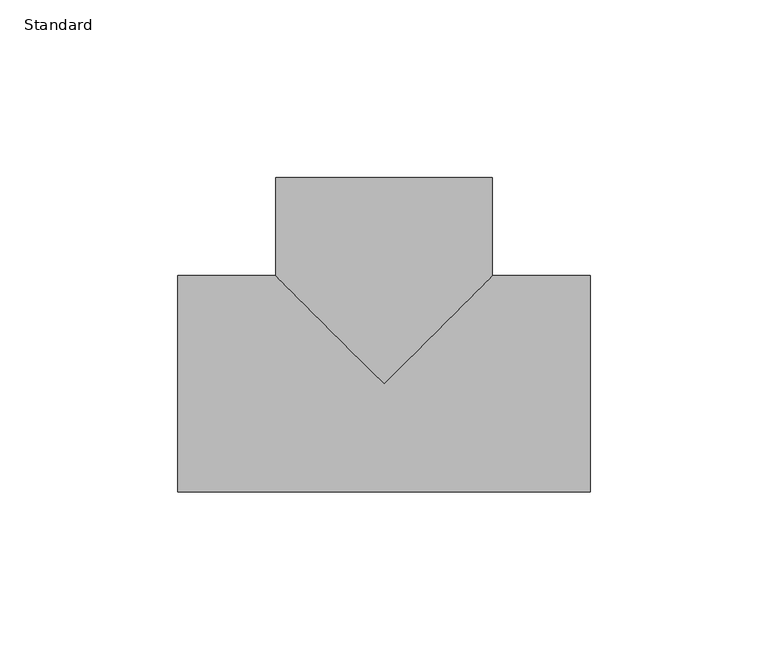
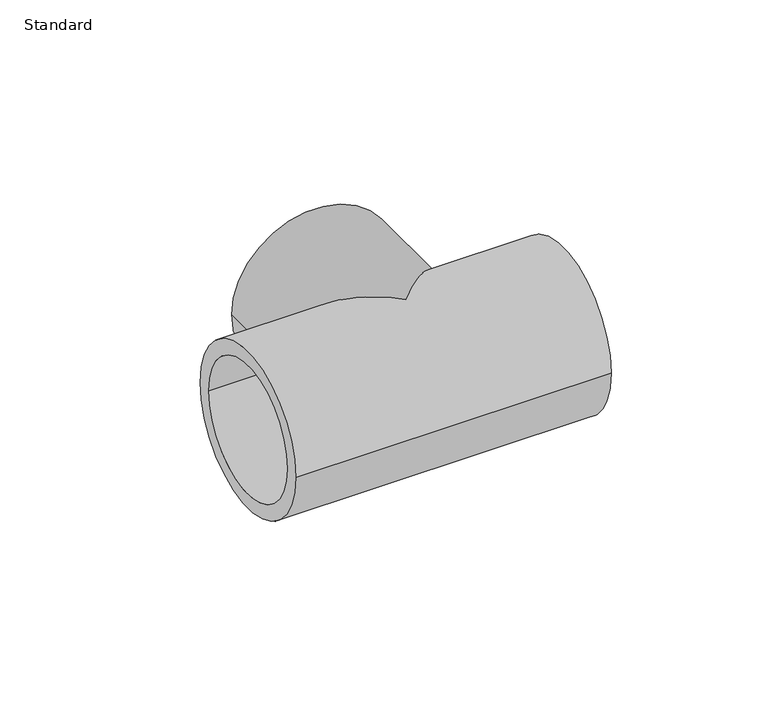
"""IFC4 building model written with IfcOpenShell, lengths in millimetres: pipe fitting geometry, Durapipe_PipeFitting_PVC_Tee90degEqual : Standard."""

import ifcopenshell
import ifcopenshell.guid

model = None  # the IFC model being written
_history = None  # IfcOwnerHistory: only IFC2X3 demands one
_inside = {}  # id of a spatial element -> (the spatial element, [elements in it])
_under = {}  # id of a project, library or spatial element -> (it, [spatial elements below it])
_declared = {}  # id of a project -> (the project, [libraries it declares])
_typed = {}  # id of a type object -> (the type object, [elements of that type])
_made_of = {}  # id of a material, layer set ... -> (it, [elements and type objects made of it])


def new_model(schema):
    """Start an empty IFC model of exactly this schema.

    Asked for "IFC4X3", IfcOpenShell would pick the latest addendum, in which some entities
    have other attributes; the version numbers below select the first issue.
    IFC2X3 requires an IfcOwnerHistory on every rooted entity: one is made here for all.
    """
    global model, _history
    if schema == "IFC4X3":
        model = ifcopenshell.file(schema_version=(4, 3, 0, 0))
    else:
        model = ifcopenshell.file(schema=schema)
    _inside.clear()
    _under.clear()
    _declared.clear()
    _typed.clear()
    _made_of.clear()
    _history = None
    if model.schema == "IFC2X3":
        org = make("IfcOrganization", Name="unknown")
        user = make(
            "IfcPersonAndOrganization",
            ThePerson=make("IfcPerson", FamilyName="unknown"),
            TheOrganization=org,
        )
        app = make(
            "IfcApplication",
            ApplicationDeveloper=org,
            Version="unknown",
            ApplicationFullName="unknown",
            ApplicationIdentifier="unknown",
        )
        _history = make(
            "IfcOwnerHistory",
            OwningUser=user,
            OwningApplication=app,
            ChangeAction="ADDED",
            CreationDate=0,
        )
    return model


def make(cls, **values):
    """One entity of the class cls with the attributes given. An attribute that is None is left unset."""
    return model.create_entity(
        cls, **{name: value for name, value in values.items() if value is not None}
    )


def rooted(cls, **values):
    """An entity with a GlobalId (a new one), such as an element, a storey or a relation."""
    return make(cls, GlobalId=ifcopenshell.guid.new(), OwnerHistory=_history, **values)


def si_unit(unit_type, name, prefix=None):
    """IfcSIUnit, for example si_unit("LENGTHUNIT", "METRE", prefix="MILLI")."""
    return make("IfcSIUnit", UnitType=unit_type, Prefix=prefix, Name=name)


def assignment(units):
    """IfcUnitAssignment: the units of a project."""
    return None if units is None else make("IfcUnitAssignment", Units=units)


def point(xyz):
    """IfcCartesianPoint."""
    return None if xyz is None else make("IfcCartesianPoint", Coordinates=xyz)


def direction(xyz):
    """IfcDirection."""
    return None if xyz is None else make("IfcDirection", DirectionRatios=xyz)


def frame(location, z_axis=None, x_axis=None):
    """IfcAxis2Placement3D, a coordinate frame: its origin and axes. An axis left out is left unset."""
    return make(
        "IfcAxis2Placement3D",
        Location=point(location),
        Axis=direction(z_axis),
        RefDirection=direction(x_axis),
    )


def origin():
    """The frame at (0, 0, 0) with its axes left unset."""
    return frame((0.0, 0.0, 0.0))


def place(relative_to, where):
    """IfcLocalPlacement: puts the frame where relative to a parent placement (None: the world)."""
    return make(
        "IfcLocalPlacement", PlacementRelTo=relative_to, RelativePlacement=where
    )


def context(
    kind, dimensions, precision=None, world=None, true_north=None, identifier=None
):
    """IfcGeometricRepresentationContext, for example the 3D "Model" context."""
    return make(
        "IfcGeometricRepresentationContext",
        ContextIdentifier=identifier,
        ContextType=kind,
        CoordinateSpaceDimension=dimensions,
        Precision=precision,
        WorldCoordinateSystem=world,
        TrueNorth=true_north,
    )


def project(units=None, contexts=None):
    """IfcProject with its units and contexts."""
    return rooted(
        "IfcProject",
        Name="project",
        RepresentationContexts=contexts,
        UnitsInContext=assignment(units),
    )


def spatial(cls, under=None, at=None, **own):
    """A site, building, storey or space (cls), placed at a placement, below another one or the project."""
    s = rooted(cls, ObjectPlacement=at, **own)
    if under is not None:
        _under.setdefault(under.id(), (under, []))[1].append(s)
    return s


def polyline(points):
    """IfcPolyline through the points."""
    return make("IfcPolyline", Points=[point(p) for p in points])


def circle_curve(where, radius):
    """IfcCircle in the frame where."""
    return make("IfcCircle", Position=where, Radius=radius)


def ellipse_curve(where, semi_axis1, semi_axis2):
    """IfcEllipse in the frame where."""
    return make(
        "IfcEllipse", Position=where, SemiAxis1=semi_axis1, SemiAxis2=semi_axis2
    )


def shape(context_of_items, identifier, shape_type, items):
    """IfcShapeRepresentation: the items that make up one representation, for example the "Body"."""
    return make(
        "IfcShapeRepresentation",
        ContextOfItems=context_of_items,
        RepresentationIdentifier=identifier,
        RepresentationType=shape_type,
        Items=items,
    )


def source(mapping_origin, context_of_items, identifier, shape_type, items):
    """IfcRepresentationMap: a shape defined once, which mapped items show again and again."""
    return make(
        "IfcRepresentationMap",
        MappingOrigin=mapping_origin,
        MappedRepresentation=shape(context_of_items, identifier, shape_type, items),
    )


def transform(
    local_origin,
    x_axis=None,
    y_axis=None,
    z_axis=None,
    scale=None,
    scale2=None,
    scale3=None,
    uniform=True,
):
    """IfcCartesianTransformationOperator3D, or its non-uniform kind. x_axis, y_axis, z_axis: its Axis1, 2, 3."""
    if uniform:
        return make(
            "IfcCartesianTransformationOperator3D",
            Axis1=direction(x_axis),
            Axis2=direction(y_axis),
            LocalOrigin=point(local_origin),
            Scale=scale,
            Axis3=direction(z_axis),
        )
    return make(
        "IfcCartesianTransformationOperator3DnonUniform",
        Axis1=direction(x_axis),
        Axis2=direction(y_axis),
        LocalOrigin=point(local_origin),
        Scale=scale,
        Axis3=direction(z_axis),
        Scale2=scale2,
        Scale3=scale3,
    )


def mapped(mapping_source, mapping_target):
    """IfcMappedItem: shows the shape of a source again, moved by a transform."""
    return make(
        "IfcMappedItem", MappingSource=mapping_source, MappingTarget=mapping_target
    )


def made_of(thing, what):
    """Note that an element or type object is made of a material, layer set ...; save() writes the relation."""
    if what is not None:
        _made_of.setdefault(what.id(), (what, []))[1].append(thing)
    return thing


def element(
    cls,
    number,
    at=None,
    inside=None,
    cuts=None,
    type_object=None,
    material=None,
    context=None,
    identifier="Body",
    shape_type=None,
    held_by="IfcProductDefinitionShape",
    body=None,
    shapes=None,
    **own,
):
    """One element of the class cls, such as IfcWall. Its Tag is "e" and its number.

    at: its placement. inside: the storey or other place that contains it. cuts: it is an
    opening in that element (IfcRelVoidsElement). A single representation is given by context,
    identifier, shape_type and body (its items); several are given by shapes. held_by: the class
    of the entity that holds the representations. save() writes the other relations.
    """
    e = rooted(cls, Tag="e%d" % number, ObjectPlacement=at, **own)
    if body is not None:
        shapes = [shape(context, identifier, shape_type, body)]
    if shapes is not None:
        e.Representation = make(held_by, Representations=shapes)
    if inside is not None:
        _inside.setdefault(inside.id(), (inside, []))[1].append(e)
    if cuts is not None:
        rooted(
            "IfcRelVoidsElement", RelatingBuildingElement=cuts, RelatedOpeningElement=e
        )
    if type_object is not None:
        _typed.setdefault(type_object.id(), (type_object, []))[1].append(e)
    return made_of(e, material)


def aggregate(whole, parts):
    """IfcRelAggregates: a whole, such as a stair, and the parts it consists of."""
    return rooted("IfcRelAggregates", RelatingObject=whole, RelatedObjects=parts)


def save(model, path):
    """Write the relations noted so far, then the file.

    IfcRelAggregates (storeys below a building ...), IfcRelContainedInSpatialStructure (elements
    in a storey), IfcRelDefinesByType, IfcRelAssociatesMaterial and IfcRelDeclares: one each for
    every whole, place, type object, material and project.
    """
    for whole, parts in _under.values():
        aggregate(whole, parts)
    for where, things in _inside.values():
        rooted(
            "IfcRelContainedInSpatialStructure",
            RelatedElements=things,
            RelatingStructure=where,
        )
    for kind, things in _typed.values():
        rooted("IfcRelDefinesByType", RelatedObjects=things, RelatingType=kind)
    for what, things in _made_of.values():
        rooted("IfcRelAssociatesMaterial", RelatedObjects=things, RelatingMaterial=what)
    for by, libraries in _declared.values():
        rooted("IfcRelDeclares", RelatingContext=by, RelatedDefinitions=libraries)
    model.write(path)


def plane_surface(at):
    """IfcPlane: the flat surface through the origin of the frame at, square to its z axis."""
    return make("IfcPlane", Position=at)


def cylinder_surface(at, radius):
    """IfcCylindricalSurface: all points at the distance radius from the z axis of the frame at."""
    return make("IfcCylindricalSurface", Position=at, Radius=radius)


def revolved_surface(curve, axis_point, axis_direction):
    """IfcSurfaceOfRevolution: the curve turned about the line through axis_point along axis_direction."""
    return make(
        "IfcSurfaceOfRevolution",
        SweptCurve=make("IfcArbitraryOpenProfileDef", ProfileType="CURVE", Curve=curve),
        AxisPosition=make("IfcAxis1Placement", Location=point(axis_point), Axis=direction(axis_direction)),
    )


def advanced_brep(points, edges, surfaces, faces):
    """IfcAdvancedBrep: a solid bounded by faces that lie on surfaces and meet in shared edges.

    An edge is (start, end): straight between two places in points (the first is 0);
    or (start, end, curve); or (start, end, curve, False) where it runs against its curve.
    A face is (place in surfaces, loops), or (place, loops, False) where it looks against
    its surface's normal. A loop lists edges by number (the first is 1), with a minus sign
    where the edge is run from its end to its start. The first loop is the outer one.
    """
    corners = [point(p) for p in points]
    vertices = [make("IfcVertexPoint", VertexGeometry=c) for c in corners]
    made = []
    for start, end, *more in edges:
        made.append(
            make(
                "IfcEdgeCurve",
                EdgeStart=vertices[start],
                EdgeEnd=vertices[end],
                EdgeGeometry=more[0] if more else make("IfcPolyline", Points=[corners[start], corners[end]]),
                SameSense=more[1] if len(more) > 1 else True,
            )
        )
    hull = []
    for where, loops, *sense in faces:
        bounds = []
        for j, loop in enumerate(loops):
            ring = [make("IfcOrientedEdge", EdgeElement=made[abs(k) - 1], Orientation=k > 0) for k in loop]
            bounds.append(
                make(
                    "IfcFaceOuterBound" if j == 0 else "IfcFaceBound",
                    Bound=make("IfcEdgeLoop", EdgeList=ring),
                    Orientation=True,
                )
            )
        hull.append(make("IfcAdvancedFace", Bounds=bounds, FaceSurface=surfaces[where], SameSense=sense[0] if sense else True))
    return make("IfcAdvancedBrep", Outer=make("IfcClosedShell", CfsFaces=hull))


def standard_7ca98134(model_context):
    return source(origin(), model_context, "Body", "AdvancedBrep", [
        advanced_brep(
        [(-30.5, 58.0, 0.0), (30.5, 58.0, 0.0), (-25.0, 58.0, 0.0), (25.0, 58.0, 0.0), (-30.5, 30.5, 0.0), (0.0, 0.0, 30.5), (30.5, 30.5, 0.0), (0.0, 0.0, -30.5), (-58.0, -30.5, 0.0), (-58.0, 30.5, 0.0), (-58.0, -25.0, 0.0), (-58.0, 25.0, 0.0), (58.0, -30.5, 0.0), (58.0, 30.5, 0.0), (58.0, 25.0, 0.0), (58.0, -25.0, 0.0), (25.0, 27.0, 0.0), (-25.0, 27.0, 0.0), (0.0, 27.0, 0.0), (27.0, -25.0, 0.0), (27.0, 25.0, 0.0), (27.0, 0.0, 0.0), (-27.0, -25.0, 0.0), (-27.0, 25.0, 0.0), (-27.0, 0.0, 0.0)],
        [
            (0, 1, circle_curve(frame((0.0, 58.0, 0.0), z_axis=(0.0, 1.0, 0.0), x_axis=(1.0, 0.0, 0.0)), 30.5)),
            (1, 0, circle_curve(frame((0.0, 58.0, 0.0), z_axis=(0.0, 1.0, 0.0), x_axis=(1.0, 0.0, 0.0)), 30.5)),
            (2, 3, circle_curve(frame((0.0, 58.0, 0.0), z_axis=(0.0, -1.0, 0.0), x_axis=(-1.0, 0.0, 0.0)), 25.0)),
            (3, 2, circle_curve(frame((0.0, 58.0, 0.0), z_axis=(0.0, -1.0, 0.0), x_axis=(-1.0, 0.0, 0.0)), 25.0)),
            (0, 4),
            (4, 5, ellipse_curve(frame((0.0, 0.0, 0.0), z_axis=(0.7071067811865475, 0.7071067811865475, 0.0), x_axis=(-0.7071067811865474, 0.7071067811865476, 0.0)), 43.1335137, 30.5)),
            (5, 6, ellipse_curve(frame((0.0, 0.0, 0.0), z_axis=(-0.7071067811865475, 0.7071067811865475, 0.0), x_axis=(0.7071067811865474, 0.7071067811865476, 0.0)), 43.1335137, 30.5)),
            (6, 1),
            (6, 7, ellipse_curve(frame((0.0, 0.0, 0.0), z_axis=(-0.7071067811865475, 0.7071067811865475, 0.0), x_axis=(0.7071067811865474, 0.7071067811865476, 0.0)), 43.1335137, 30.5)),
            (7, 4, ellipse_curve(frame((0.0, 0.0, 0.0), z_axis=(0.7071067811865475, 0.7071067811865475, 0.0), x_axis=(-0.7071067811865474, 0.7071067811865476, 0.0)), 43.1335137, 30.5)),
            (8, 9, circle_curve(frame((-58.0, 0.0, 0.0), z_axis=(-1.0, 0.0, 0.0), x_axis=(0.0, 1.0, 0.0)), 30.5)),
            (9, 8, circle_curve(frame((-58.0, 0.0, 0.0), z_axis=(-1.0, 0.0, 0.0), x_axis=(0.0, 1.0, 0.0)), 30.5)),
            (10, 11, circle_curve(frame((-58.0, 0.0, 0.0), z_axis=(1.0, 0.0, 0.0), x_axis=(0.0, 1.0, 0.0)), 25.0)),
            (11, 10, circle_curve(frame((-58.0, 0.0, 0.0), z_axis=(1.0, 0.0, 0.0), x_axis=(0.0, 1.0, 0.0)), 25.0)),
            (12, 13, circle_curve(frame((58.0, 0.0, 0.0), z_axis=(1.0, 0.0, 0.0), x_axis=(0.0, 1.0, 0.0)), 30.5)),
            (13, 12, circle_curve(frame((58.0, 0.0, 0.0), z_axis=(1.0, 0.0, 0.0), x_axis=(0.0, 1.0, 0.0)), 30.5)),
            (14, 15, circle_curve(frame((58.0, 0.0, 0.0), z_axis=(-1.0, 0.0, 0.0), x_axis=(0.0, 1.0, 0.0)), 25.0)),
            (15, 14, circle_curve(frame((58.0, 0.0, 0.0), z_axis=(-1.0, 0.0, 0.0), x_axis=(0.0, 1.0, 0.0)), 25.0)),
            (8, 12),
            (13, 6),
            (4, 9),
            (16, 3),
            (2, 17),
            (17, 16, circle_curve(frame((0.0, 27.0, 0.0), z_axis=(0.0, -1.0, 0.0), x_axis=(-1.0, 0.0, 0.0)), 25.0)),
            (16, 17, circle_curve(frame((0.0, 27.0, 0.0), z_axis=(0.0, -1.0, 0.0), x_axis=(-1.0, 0.0, 0.0)), 25.0)),
            (17, 18),
            (18, 16),
            (19, 15),
            (14, 20),
            (20, 19, circle_curve(frame((27.0, 0.0, 0.0), z_axis=(-1.0, 0.0, 0.0), x_axis=(0.0, 1.0, 0.0)), 25.0)),
            (19, 20, circle_curve(frame((27.0, 0.0, 0.0), z_axis=(-1.0, 0.0, 0.0), x_axis=(0.0, 1.0, 0.0)), 25.0)),
            (20, 21),
            (21, 19),
            (10, 22),
            (22, 23, circle_curve(frame((-27.0, 0.0, 0.0), z_axis=(1.0, 0.0, 0.0), x_axis=(0.0, 1.0, 0.0)), 25.0)),
            (23, 11),
            (23, 22, circle_curve(frame((-27.0, 0.0, 0.0), z_axis=(1.0, 0.0, 0.0), x_axis=(0.0, 1.0, 0.0)), 25.0)),
            (22, 24),
            (24, 23),
        ],
        [
            plane_surface(frame((0.0, 58.0, 0.0), z_axis=(0.0, 1.0, 0.0), x_axis=(0.0, 0.0, 1.0))),
            cylinder_surface(frame((0.0, 58.0, 0.0), z_axis=(0.0, 1.0, 0.0), x_axis=(1.0, 0.0, 0.0)), 30.5),
            plane_surface(frame((-58.0, 0.0, 0.0), z_axis=(-1.0, 0.0, 0.0), x_axis=(0.0, 0.0, 1.0))),
            plane_surface(frame((58.0, 0.0, 0.0), z_axis=(1.0, 0.0, 0.0), x_axis=(0.0, 0.0, 1.0))),
            cylinder_surface(frame((-58.0, 0.0, 0.0), z_axis=(-1.0, 0.0, 0.0), x_axis=(0.0, 1.0, 0.0)), 30.5),
            revolved_surface(polyline([(-25.0, 27.0, 0.0), (-25.0, 58.0, 0.0)]), (0.0, 2033.0, 0.0), (0.0, -1.0, 0.0)),
            plane_surface(frame((0.0, 27.0, 0.0), z_axis=(0.0, 1.0, 0.0), x_axis=(-1.0, 0.0, 0.0))),
            revolved_surface(polyline([(27.0, 25.0, 0.0), (58.0, 25.0, 0.0)]), (2034.5, 0.0, 0.0), (-1.0, 0.0, 0.0)),
            plane_surface(frame((27.0, 0.0, 0.0), z_axis=(1.0, 0.0, 0.0), x_axis=(0.0, 1.0, 0.0))),
            revolved_surface(polyline([(-58.0, 25.0, 0.0), (-27.0, 25.0, 0.0)]), (2034.5, 0.0, 0.0), (-1.0, 0.0, 0.0)),
            plane_surface(frame((-27.0, 0.0, 0.0), z_axis=(-1.0, 0.0, 0.0), x_axis=(0.0, 1.0, 0.0))),
        ],
        [
            (0, [[1, 2], [3, 4]]),
            (1, [[-1, 5, 6, 7, 8]]),
            (1, [[-2, -8, 9, 10, -5]]),
            (2, [[11, 12], [13, 14]]),
            (3, [[15, 16], [17, 18]]),
            (4, [[-11, 19, -16, 20, -7, -6, 21]]),
            (4, [[-12, -21, -10, -9, -20, -15, -19]]),
            (5, [[22, -3, 23, 24]]),
            (5, [[-22, 25, -23, -4]]),
            (6, [[-24, 26, 27]]),
            (6, [[-25, -27, -26]]),
            (7, [[28, -17, 29, 30]]),
            (7, [[-28, 31, -29, -18]]),
            (8, [[-30, 32, 33]]),
            (8, [[-31, -33, -32]]),
            (9, [[34, 35, 36, -13]]),
            (9, [[-34, -14, -36, 37]]),
            (10, [[-35, 38, 39]]),
            (10, [[-37, -39, -38]]),
        ],
    ),
    ])


if __name__ == "__main__":
    model = new_model("IFC4")
    model_context = context("Model", 3, world=origin())
    ifc_project = project(units=[si_unit("LENGTHUNIT", "METRE", prefix="MILLI")], contexts=[model_context])
    site = spatial("IfcSite", under=ifc_project)
    building = spatial("IfcBuilding", under=site)
    placement = place(None, origin())
    standard_shape = standard_7ca98134(model_context)
    element("IfcPipeFitting", 1, ObjectType="Durapipe_PipeFitting_PVC_Tee90degEqual : Standard", at=placement, inside=building, context=model_context, shape_type="MappedRepresentation", body=[
        mapped(standard_shape, transform((0.0, 0.0, 0.0), x_axis=(1.0, 0.0, 0.0), y_axis=(0.0, 1.0, 0.0), z_axis=(0.0, 0.0, 1.0))),
    ])
    save(model, "model.ifc")
